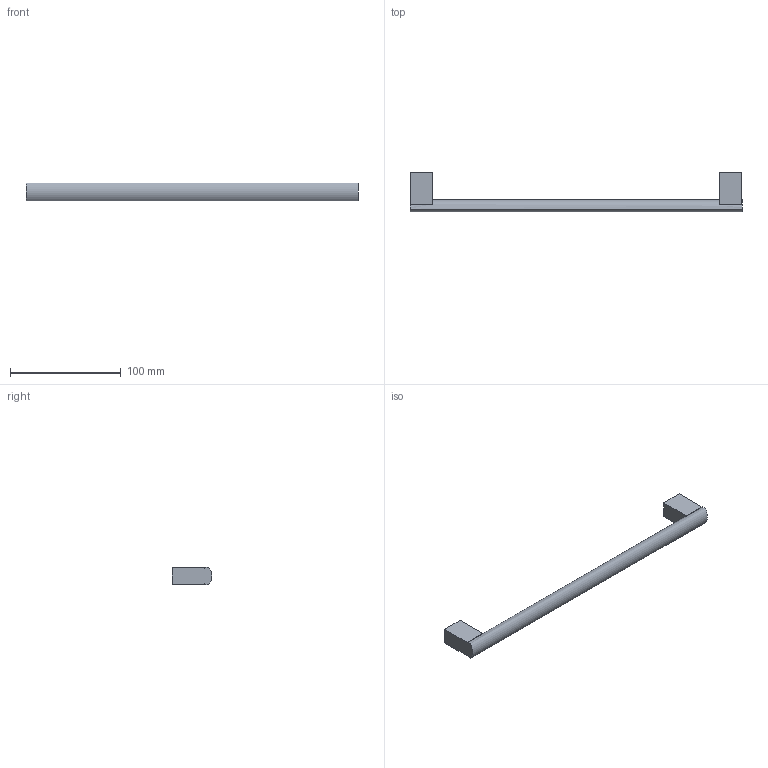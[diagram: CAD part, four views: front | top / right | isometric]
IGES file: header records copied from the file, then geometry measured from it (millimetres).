
Start section: Data from Parasolid IGES Translator 20.0.26, Copyright(c) 2006 Siemens P LM Software. All Rights Reserved.
Global section: file name: 115208.igs; native system: By Siemens PLM Incorporated; preprocessor: XPlus GENERIC/IGES 20.0.26; author: Noname; organization: Noname; date: 20230220.161538; units: millimetre
Bounding box: 300 x 35.96 x 16 mm (x, y, z)
Surface area: 17124.1 mm2 (no closed solid volume)
Topology: 0 solids, 0 shells, 22 faces, 102 edges, 100 vertices
Faces by surface type: extrusion 17, revolution 5
